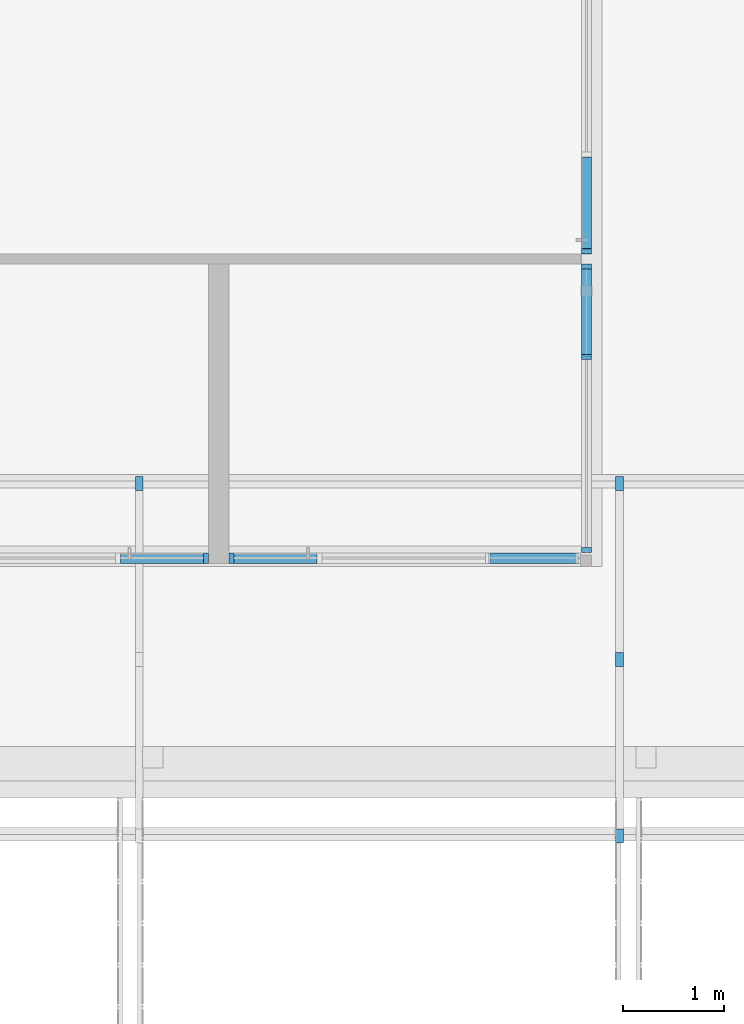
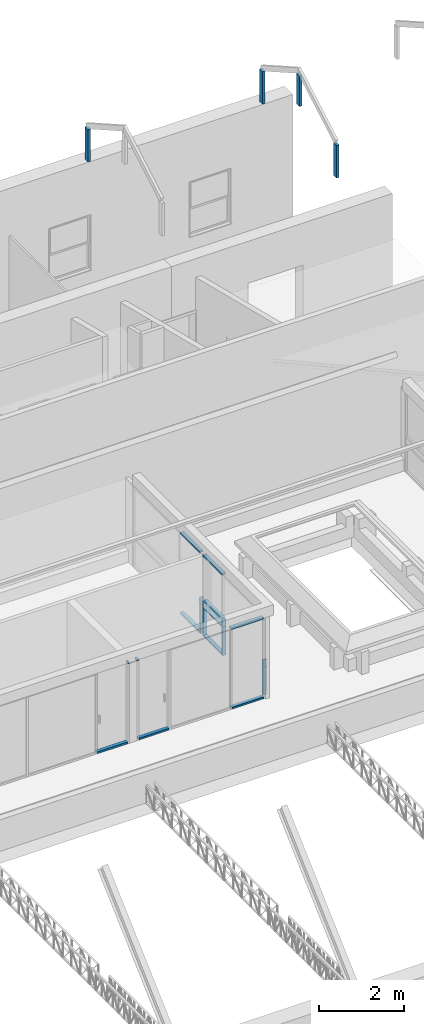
# One storey, part 95 of 153: 27 members, 6 elements without a shape of their own.
"""IFC4 building model written with IfcOpenShell, lengths in metres."""

from ifc_helpers import new_model, entity, si_unit, converted_unit, derived_unit, direction, frame, origin, place, context, subcontext, project, spatial, indexed_curve, outline, extrude, source, transform, mapped, material, type_object, type_shapes, element, aggregate, save


model = new_model("IFC4")

# Units and contexts
model_context = context("Model", 3, precision=1e-05, world=origin(), true_north=direction((6.123031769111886e-17, 1.0)))
body_context = subcontext(model_context, "Body", "Model", "MODEL_VIEW")
ifc_project = project(units=[si_unit("LENGTHUNIT", "METRE"), si_unit("AREAUNIT", "SQUARE_METRE"), si_unit("VOLUMEUNIT", "CUBIC_METRE"), converted_unit("PLANEANGLEUNIT", "DEGREE", entity("IfcRatioMeasure", 0.017453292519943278), si_unit("PLANEANGLEUNIT", "RADIAN"), dimensions=[0, 0, 0, 0, 0, 0, 0]), si_unit("MASSUNIT", "GRAM", prefix="KILO"), derived_unit("MASSDENSITYUNIT", [(si_unit("MASSUNIT", "GRAM", prefix="KILO"), 1), (si_unit("LENGTHUNIT", "METRE"), -3)]), derived_unit("MOMENTOFINERTIAUNIT", [(si_unit("LENGTHUNIT", "METRE"), 4)]), si_unit("TIMEUNIT", "SECOND"), si_unit("FREQUENCYUNIT", "HERTZ"), si_unit("THERMODYNAMICTEMPERATUREUNIT", "DEGREE_CELSIUS"), derived_unit("THERMALTRANSMITTANCEUNIT", [(si_unit("MASSUNIT", "GRAM", prefix="KILO"), 1), (si_unit("THERMODYNAMICTEMPERATUREUNIT", "KELVIN"), -1), (si_unit("TIMEUNIT", "SECOND"), -3)]), derived_unit("VOLUMETRICFLOWRATEUNIT", [(si_unit("LENGTHUNIT", "METRE"), 3), (si_unit("TIMEUNIT", "SECOND"), -1)]), derived_unit("MASSFLOWRATEUNIT", [(si_unit("MASSUNIT", "GRAM", prefix="KILO"), 1), (si_unit("TIMEUNIT", "SECOND"), -1)]), derived_unit("ROTATIONALFREQUENCYUNIT", [(si_unit("TIMEUNIT", "SECOND"), -1)]), si_unit("ELECTRICCURRENTUNIT", "AMPERE"), si_unit("ELECTRICVOLTAGEUNIT", "VOLT"), si_unit("POWERUNIT", "WATT"), si_unit("FORCEUNIT", "NEWTON", prefix="KILO"), si_unit("ILLUMINANCEUNIT", "LUX"), si_unit("LUMINOUSFLUXUNIT", "LUMEN"), si_unit("LUMINOUSINTENSITYUNIT", "CANDELA"), derived_unit("USERDEFINED", [(si_unit("MASSUNIT", "GRAM", prefix="KILO"), -1), (si_unit("LENGTHUNIT", "METRE"), -2), (si_unit("TIMEUNIT", "SECOND"), 3), (si_unit("LUMINOUSFLUXUNIT", "LUMEN"), 1)]), derived_unit("SOUNDPOWERUNIT", [(si_unit("MASSUNIT", "GRAM", prefix="KILO"), 1), (si_unit("LENGTHUNIT", "METRE"), 2), (si_unit("TIMEUNIT", "SECOND"), -3)]), derived_unit("SOUNDPRESSUREUNIT", [(si_unit("MASSUNIT", "GRAM", prefix="KILO"), 1), (si_unit("LENGTHUNIT", "METRE"), -1), (si_unit("TIMEUNIT", "SECOND"), -2)]), derived_unit("LINEARVELOCITYUNIT", [(si_unit("LENGTHUNIT", "METRE"), 1), (si_unit("TIMEUNIT", "SECOND"), -1)]), si_unit("PRESSUREUNIT", "PASCAL"), derived_unit("USERDEFINED", [(si_unit("LENGTHUNIT", "METRE"), -2), (si_unit("MASSUNIT", "GRAM", prefix="KILO"), 1), (si_unit("TIMEUNIT", "SECOND"), -2)]), derived_unit("LINEARFORCEUNIT", [(si_unit("MASSUNIT", "GRAM", prefix="KILO"), 1), (si_unit("LENGTHUNIT", "METRE"), 1), (si_unit("TIMEUNIT", "SECOND"), -2), (si_unit("LENGTHUNIT", "METRE"), -1)]), derived_unit("PLANARFORCEUNIT", [(si_unit("MASSUNIT", "GRAM", prefix="KILO"), 1), (si_unit("LENGTHUNIT", "METRE"), 1), (si_unit("TIMEUNIT", "SECOND"), -2), (si_unit("LENGTHUNIT", "METRE"), -2)])], contexts=[model_context])

# Site, building, storey
site_placement = place(None, origin())
site = spatial("IfcSite", under=ifc_project, at=site_placement, Name="Superficie", CompositionType="ELEMENT")
building_placement = place(site_placement, origin())
building = spatial("IfcBuilding", under=site, at=building_placement, CompositionType="ELEMENT")
storey_placement = place(building_placement, frame((0.0, 0.0, 3.5999999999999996)))
storey = spatial("IfcBuildingStorey", under=building, at=storey_placement, Name="Nivel 1", CompositionType="ELEMENT", Elevation=3.5999999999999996)

# Curtain wall, members
curtain_wall_type = type_object("IfcCurtainWallType", Name="Muro cortina:Muro cortina - simple", PredefinedType="NOTDEFINED")
curtain_wall_1_placement = place(storey_placement, frame((0.0, 0.0, -3.5999999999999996)))
curtain_wall_1 = element("IfcCurtainWall", 1, at=curtain_wall_1_placement, inside=storey, type_object=curtain_wall_type, Name="Muro cortina:Muro cortina - simple", ObjectType="Muro cortina:Muro cortina - simple", PredefinedType="NOTDEFINED")
ifc_material_1 = material(Name="<Unnamed>")
member_type_1 = type_object("IfcMemberType", Name="Montante rectangular:Montante rectangular - 5 x 10 cm", PredefinedType="MULLION", material=ifc_material_1)
shared_shape_1 = source(origin(), body_context, "Body", "SweptSolid", [
    extrude(outline(indexed_curve([(-0.05, -0.025), (0.05, -0.025), (0.05, 0.025), (-0.05, 0.025), (-0.05, -0.025)], self_intersect=False)), frame((0.0, 0.0, -0.8500000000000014), z_axis=(0.0, 0.0, 1.0), x_axis=(0.0, -1.0, 0.0)), (0.0, 0.0, 1.0), 0.849999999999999),
])
type_shapes(member_type_1, [shared_shape_1])
member_1_placement = place(curtain_wall_1_placement, frame((10.596799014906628, 1.9220831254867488, 3.619999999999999), z_axis=(0.0, 1.0, 0.0), x_axis=(0.0, 0.0, 1.0)))
member_1 = element("IfcMember", 2, at=member_1_placement, type_object=member_type_1, material=ifc_material_1, Name="Montante rectangular:Montante rectangular - 5 x 10 cm", ObjectType="Montante rectangular:Montante rectangular - 5 x 10 cm", PredefinedType="MULLION", context=body_context, shape_type="MappedRepresentation", body=[
    mapped(shared_shape_1, transform((0.0, 0.0, 0.0), scale=1.0)),
])
member_2_placement = place(curtain_wall_1_placement, frame((10.596799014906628, 1.9220831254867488, 4.63), z_axis=(0.0, 1.0, 0.0), x_axis=(0.0, 0.0, 1.0)))
member_2 = element("IfcMember", 3, at=member_2_placement, type_object=member_type_1, material=ifc_material_1, Name="Montante rectangular:Montante rectangular - 5 x 10 cm", ObjectType="Montante rectangular:Montante rectangular - 5 x 10 cm", PredefinedType="MULLION", context=body_context, shape_type="MappedRepresentation", body=[
    mapped(shared_shape_1, transform((0.0, 0.0, 0.0), scale=1.0)),
])
member_type_2 = type_object("IfcMemberType", Name="Montante rectangular:Montante rectangular - 5 x 10 cm", PredefinedType="MULLION", material=ifc_material_1)
shared_shape_2 = source(origin(), body_context, "Body", "SweptSolid", [
    extrude(outline(indexed_curve([(-0.05, -0.025), (0.05, -0.025), (0.05, 0.025), (-0.05, 0.025), (-0.05, -0.025)], self_intersect=False)), frame((0.0, 0.0, -0.8500000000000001), z_axis=(0.0, 0.0, 1.0), x_axis=(0.0, -1.0, 0.0)), (0.0, 0.0, 1.0), 0.8500000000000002),
])
type_shapes(member_type_2, [shared_shape_2])
member_3_placement = place(curtain_wall_1_placement, frame((10.596799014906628, 1.9220831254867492, 4.43), z_axis=(0.0, 1.0, 0.0), x_axis=(0.0, 0.0, 1.0)))
member_3 = element("IfcMember", 4, at=member_3_placement, type_object=member_type_2, material=ifc_material_1, Name="Montante rectangular:Montante rectangular - 5 x 10 cm", ObjectType="Montante rectangular:Montante rectangular - 5 x 10 cm", PredefinedType="MULLION", context=body_context, shape_type="MappedRepresentation", body=[
    mapped(shared_shape_2, transform((0.0, 0.0, 0.0), scale=1.0)),
])

# Curtain wall, member
curtain_wall_2_placement = place(storey_placement, frame((0.0, 0.0, -3.5999999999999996)))
curtain_wall_2 = element("IfcCurtainWall", 5, at=curtain_wall_2_placement, inside=storey, type_object=curtain_wall_type, Name="Muro cortina:Muro cortina - simple", ObjectType="Muro cortina:Muro cortina - simple", PredefinedType="NOTDEFINED")
member_type_3 = type_object("IfcMemberType", Name="Montante rectangular:Montante rectangular - 5 x 10 cm", PredefinedType="MULLION", material=ifc_material_1)
shared_shape_3 = source(origin(), body_context, "Body", "SweptSolid", [
    extrude(outline(indexed_curve([(-0.05, -0.025), (0.05, -0.025), (0.05, 0.025), (-0.05, 0.025), (-0.05, -0.025)], self_intersect=False)), frame((-0.025, 0.0, -0.8999999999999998), z_axis=(0.0, 0.0, 1.0), x_axis=(0.0, -1.0, 0.0)), (0.0, 0.0, 1.0), 0.8999999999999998),
])
type_shapes(member_type_3, [shared_shape_3])
member_4_placement = place(curtain_wall_2_placement, frame((9.616799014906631, -0.9517564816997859, 5.949999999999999), z_axis=(-1.0, 0.0, 0.0), x_axis=(0.0, 0.0, 1.0)))
member_4 = element("IfcMember", 6, at=member_4_placement, type_object=member_type_3, material=ifc_material_1, Name="Montante rectangular:Montante rectangular - 5 x 10 cm", ObjectType="Montante rectangular:Montante rectangular - 5 x 10 cm", PredefinedType="MULLION", context=body_context, shape_type="MappedRepresentation", body=[
    mapped(shared_shape_3, transform((0.0, 0.0, 0.0), scale=1.0)),
])

# Member
member_type_4 = type_object("IfcMemberType", Name="Montante rectangular:Montante rectangular - 5 x 10 cm", PredefinedType="MULLION", material=ifc_material_1)
shared_shape_4 = source(origin(), body_context, "Body", "SweptSolid", [
    extrude(outline(indexed_curve([(-0.05, -0.025), (0.05, -0.025), (0.05, 0.025), (-0.05, 0.025), (-0.05, -0.025)], self_intersect=False)), frame((0.0, 0.0, -0.19999999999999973), z_axis=(0.0, 0.0, 1.0), x_axis=(0.0, -1.0, 0.0)), (0.0, 0.0, 1.0), 0.19999999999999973),
])
type_shapes(member_type_4, [shared_shape_4])
member_5_placement = place(curtain_wall_1_placement, frame((10.596799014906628, 1.0470831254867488, 4.43), z_axis=(0.0, 0.0, -1.0), x_axis=(0.0, 1.0, 0.0)))
member_5 = element("IfcMember", 7, at=member_5_placement, type_object=member_type_4, material=ifc_material_1, Name="Montante rectangular:Montante rectangular - 5 x 10 cm", ObjectType="Montante rectangular:Montante rectangular - 5 x 10 cm", PredefinedType="MULLION", context=body_context, shape_type="MappedRepresentation", body=[
    mapped(shared_shape_4, transform((0.0, 0.0, 0.0), scale=1.0)),
])

member_type_5 = type_object("IfcMemberType", Name="Montante rectangular:Montante rectangular - 5 x 10 cm", PredefinedType="MULLION", material=ifc_material_1)
shared_shape_5 = source(origin(), body_context, "Body", "SweptSolid", [
    extrude(outline(indexed_curve([(-0.05, -0.025), (0.05, -0.025), (0.05, 0.025), (-0.05, 0.025), (-0.05, -0.025)], self_intersect=False)), frame((0.0, 0.0, -0.8350000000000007), z_axis=(0.0, 0.0, 1.0), x_axis=(0.0, -1.0, 0.0)), (0.0, 0.0, 1.0), 0.8350000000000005),
])
type_shapes(member_type_5, [shared_shape_5])
member_6_placement = place(curtain_wall_1_placement, frame((10.596799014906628, 1.0470831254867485, 3.5949999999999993), z_axis=(0.0, 0.0, -1.0), x_axis=(0.0, 1.0, 0.0)))
member_6 = element("IfcMember", 8, at=member_6_placement, type_object=member_type_5, material=ifc_material_1, Name="Montante rectangular:Montante rectangular - 5 x 10 cm", ObjectType="Montante rectangular:Montante rectangular - 5 x 10 cm", PredefinedType="MULLION", context=body_context, shape_type="MappedRepresentation", body=[
    mapped(shared_shape_5, transform((0.0, 0.0, 0.0), scale=1.0)),
])

# Curtain wall, member
curtain_wall_3_placement = place(storey_placement, frame((0.0, 0.0, -3.5999999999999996)))
curtain_wall_3 = element("IfcCurtainWall", 9, at=curtain_wall_3_placement, inside=storey, type_object=curtain_wall_type, Name="Muro cortina:Muro cortina - simple", ObjectType="Muro cortina:Muro cortina - simple", PredefinedType="NOTDEFINED")
member_type_6 = type_object("IfcMemberType", Name="Montante rectangular:Montante rectangular - 5 x 10 cm", PredefinedType="MULLION", material=ifc_material_1)
shared_shape_6 = source(origin(), body_context, "Body", "SweptSolid", [
    extrude(outline(indexed_curve([(-0.05, -0.025), (0.05, -0.025), (0.05, 0.025), (-0.05, 0.025), (-0.05, -0.025)], self_intersect=False)), frame((0.0, 0.0, -0.2), z_axis=(0.0, 0.0, 1.0), x_axis=(0.0, -1.0, 0.0)), (0.0, 0.0, 1.0), 0.2),
])
type_shapes(member_type_6, [shared_shape_6])
member_7_placement = place(curtain_wall_3_placement, frame((10.596799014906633, 2.097083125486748, 4.43), z_axis=(0.0, 0.0, -1.0), x_axis=(0.0, 1.0, 0.0)))
member_7 = element("IfcMember", 10, at=member_7_placement, type_object=member_type_6, material=ifc_material_1, Name="Montante rectangular:Montante rectangular - 5 x 10 cm", ObjectType="Montante rectangular:Montante rectangular - 5 x 10 cm", PredefinedType="MULLION", context=body_context, shape_type="MappedRepresentation", body=[
    mapped(shared_shape_6, transform((0.0, 0.0, 0.0), scale=1.0)),
])

# Member
member_type_7 = type_object("IfcMemberType", Name="Montante rectangular:Montante rectangular - 5 x 10 cm", PredefinedType="MULLION", material=ifc_material_1)
shared_shape_7 = source(origin(), body_context, "Body", "SweptSolid", [
    extrude(outline(indexed_curve([(-0.05, -0.025), (0.05, -0.025), (0.05, 0.025), (-0.05, 0.025), (-0.05, -0.025)], self_intersect=False)), frame((0.0, 0.0, -0.8350000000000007), z_axis=(0.0, 0.0, 1.0), x_axis=(0.0, -1.0, 0.0)), (0.0, 0.0, 1.0), 0.8350000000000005),
])
type_shapes(member_type_7, [shared_shape_7])
member_8_placement = place(curtain_wall_1_placement, frame((10.596799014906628, 1.947083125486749, 3.5949999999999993), z_axis=(0.0, 0.0, -1.0), x_axis=(0.0, 1.0, 0.0)))
member_8 = element("IfcMember", 11, at=member_8_placement, type_object=member_type_7, material=ifc_material_1, Name="Montante rectangular:Montante rectangular - 5 x 10 cm", ObjectType="Montante rectangular:Montante rectangular - 5 x 10 cm", PredefinedType="MULLION", context=body_context, shape_type="MappedRepresentation", body=[
    mapped(shared_shape_7, transform((0.0, 0.0, 0.0), scale=1.0)),
])

member_9_placement = place(curtain_wall_3_placement, frame((10.596799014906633, 2.0970831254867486, 3.5949999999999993), z_axis=(0.0, 0.0, -1.0), x_axis=(0.0, 1.0, 0.0)))
member_9 = element("IfcMember", 12, at=member_9_placement, type_object=member_type_7, material=ifc_material_1, Name="Montante rectangular:Montante rectangular - 5 x 10 cm", ObjectType="Montante rectangular:Montante rectangular - 5 x 10 cm", PredefinedType="MULLION", context=body_context, shape_type="MappedRepresentation", body=[
    mapped(shared_shape_7, transform((0.0, 0.0, 0.0), scale=1.0)),
])

member_type_8 = type_object("IfcMemberType", Name="Montante rectangular:Montante rectangular - 5 x 10 cm", PredefinedType="MULLION", material=ifc_material_1)
shared_shape_8 = source(origin(), body_context, "Body", "SweptSolid", [
    extrude(outline(indexed_curve([(-0.05, -0.025), (0.05, -0.025), (0.05, 0.025), (-0.05, 0.025), (-0.05, -0.025)], self_intersect=False)), frame((-0.025, 0.0, -0.19999999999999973), z_axis=(0.0, 0.0, 1.0), x_axis=(0.0, -1.0, 0.0)), (0.0, 0.0, 1.0), 0.19999999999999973),
])
type_shapes(member_type_8, [shared_shape_8])
member_10_placement = place(curtain_wall_1_placement, frame((10.596799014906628, -0.892916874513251, 4.63), z_axis=(0.0, 0.0, 1.0), x_axis=(0.0, -1.0, 0.0)))
member_10 = element("IfcMember", 13, at=member_10_placement, type_object=member_type_8, material=ifc_material_1, Name="Montante rectangular:Montante rectangular - 5 x 10 cm", ObjectType="Montante rectangular:Montante rectangular - 5 x 10 cm", PredefinedType="MULLION", context=body_context, shape_type="MappedRepresentation", body=[
    mapped(shared_shape_8, transform((0.0, 0.0, 0.0), scale=1.0)),
])

member_type_9 = type_object("IfcMemberType", Name="Montante rectangular:Montante rectangular - 5 x 10 cm", PredefinedType="MULLION", material=ifc_material_1)
shared_shape_9 = source(origin(), body_context, "Body", "SweptSolid", [
    extrude(outline(indexed_curve([(-0.05, -0.025), (0.05, -0.025), (0.05, 0.025), (-0.05, 0.025), (-0.05, -0.025)], self_intersect=False)), frame((0.0, 0.0, -0.07000000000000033), z_axis=(0.0, 0.0, 1.0), x_axis=(0.0, -1.0, 0.0)), (0.0, 0.0, 1.0), 0.07000000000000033),
])
type_shapes(member_type_9, [shared_shape_9])
member_11_placement = place(curtain_wall_1_placement, frame((10.596799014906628, 1.947083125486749, 5.879999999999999), z_axis=(0.0, 0.0, -1.0), x_axis=(0.0, 1.0, 0.0)))
member_11 = element("IfcMember", 14, at=member_11_placement, type_object=member_type_9, material=ifc_material_1, Name="Montante rectangular:Montante rectangular - 5 x 10 cm", ObjectType="Montante rectangular:Montante rectangular - 5 x 10 cm", PredefinedType="MULLION", context=body_context, shape_type="MappedRepresentation", body=[
    mapped(shared_shape_9, transform((0.0, 0.0, 0.0), scale=1.0)),
])

member_type_10 = type_object("IfcMemberType", Name="Montante rectangular:Montante rectangular - 5 x 10 cm", PredefinedType="MULLION", material=ifc_material_1)
shared_shape_10 = source(origin(), body_context, "Body", "SweptSolid", [
    extrude(outline(indexed_curve([(-0.05, -0.025), (0.05, -0.025), (0.05, 0.025), (-0.05, 0.025), (-0.05, -0.025)], self_intersect=False)), frame((-0.025, 0.0, -0.8099999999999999), z_axis=(0.0, 0.0, 1.0), x_axis=(0.0, -1.0, 0.0)), (0.0, 0.0, 1.0), 0.8099999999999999),
])
type_shapes(member_type_10, [shared_shape_10])
member_12_placement = place(curtain_wall_1_placement, frame((10.596799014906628, -0.892916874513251, 4.43), z_axis=(0.0, 0.0, 1.0), x_axis=(0.0, -1.0, 0.0)))
member_12 = element("IfcMember", 15, at=member_12_placement, type_object=member_type_10, material=ifc_material_1, Name="Montante rectangular:Montante rectangular - 5 x 10 cm", ObjectType="Montante rectangular:Montante rectangular - 5 x 10 cm", PredefinedType="MULLION", context=body_context, shape_type="MappedRepresentation", body=[
    mapped(shared_shape_10, transform((0.0, 0.0, 0.0), scale=1.0)),
])

member_13_placement = place(curtain_wall_3_placement, frame((10.596799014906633, 2.0770831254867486, 4.43), z_axis=(0.0, 0.0, 1.0), x_axis=(0.0, -1.0, 0.0)))
member_13 = element("IfcMember", 16, at=member_13_placement, type_object=member_type_10, material=ifc_material_1, Name="Montante rectangular:Montante rectangular - 5 x 10 cm", ObjectType="Montante rectangular:Montante rectangular - 5 x 10 cm", PredefinedType="MULLION", context=body_context, shape_type="MappedRepresentation", body=[
    mapped(shared_shape_10, transform((0.0, 0.0, 0.0), scale=1.0)),
])

member_type_11 = type_object("IfcMemberType", Name="Montante rectangular:Montante rectangular - 5 x 10 cm", PredefinedType="MULLION", material=ifc_material_1)
shared_shape_11 = source(origin(), body_context, "Body", "SweptSolid", [
    extrude(outline(indexed_curve([(-0.05, -0.025), (0.05, -0.025), (0.05, 0.025), (-0.05, 0.025), (-0.05, -0.025)], self_intersect=False)), frame((-0.025, 0.0, -0.8750000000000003), z_axis=(0.0, 0.0, 1.0), x_axis=(0.0, -1.0, 0.0)), (0.0, 0.0, 1.0), 0.8750000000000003),
])
type_shapes(member_type_11, [shared_shape_11])
member_14_placement = place(curtain_wall_1_placement, frame((10.596799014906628, 1.9220831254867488, 5.949999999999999), z_axis=(0.0, 1.0, 0.0), x_axis=(0.0, 0.0, 1.0)))
member_14 = element("IfcMember", 17, at=member_14_placement, type_object=member_type_11, material=ifc_material_1, Name="Montante rectangular:Montante rectangular - 5 x 10 cm", ObjectType="Montante rectangular:Montante rectangular - 5 x 10 cm", PredefinedType="MULLION", context=body_context, shape_type="MappedRepresentation", body=[
    mapped(shared_shape_11, transform((0.0, 0.0, 0.0), scale=1.0)),
])

member_type_12 = type_object("IfcMemberType", Name="Montante rectangular:Montante rectangular - 5 x 10 cm", PredefinedType="MULLION", material=ifc_material_1)
shared_shape_12 = source(origin(), body_context, "Body", "SweptSolid", [
    extrude(outline(indexed_curve([(-0.05, -0.025), (0.05, -0.025), (0.05, 0.025), (-0.05, 0.025), (-0.05, -0.025)], self_intersect=False)), frame((0.0, 0.0, -0.9099999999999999), z_axis=(0.0, 0.0, 1.0), x_axis=(0.0, -1.0, 0.0)), (0.0, 0.0, 1.0), 0.9099999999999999),
])
type_shapes(member_type_12, [shared_shape_12])
member_15_placement = place(curtain_wall_3_placement, frame((10.596799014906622, 3.032083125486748, 3.619999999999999), z_axis=(0.0, 1.0, 0.0), x_axis=(0.0, 0.0, 1.0)))
member_15 = element("IfcMember", 18, at=member_15_placement, type_object=member_type_12, material=ifc_material_1, Name="Montante rectangular:Montante rectangular - 5 x 10 cm", ObjectType="Montante rectangular:Montante rectangular - 5 x 10 cm", PredefinedType="MULLION", context=body_context, shape_type="MappedRepresentation", body=[
    mapped(shared_shape_12, transform((0.0, 0.0, 0.0), scale=1.0)),
])

member_type_13 = type_object("IfcMemberType", Name="Montante rectangular:Montante rectangular - 5 x 10 cm", PredefinedType="MULLION", material=ifc_material_1)
shared_shape_13 = source(origin(), body_context, "Body", "SweptSolid", [
    extrude(outline(indexed_curve([(-0.05, -0.025), (0.05, -0.025), (0.05, 0.025), (-0.05, 0.025), (-0.05, -0.025)], self_intersect=False)), frame((-0.025, 0.0, -0.9099999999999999), z_axis=(0.0, 0.0, 1.0), x_axis=(0.0, -1.0, 0.0)), (0.0, 0.0, 1.0), 0.9099999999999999),
])
type_shapes(member_type_13, [shared_shape_13])
member_16_placement = place(curtain_wall_3_placement, frame((10.596799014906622, 3.0320831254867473, 5.949999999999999), z_axis=(0.0, 1.0, 0.0), x_axis=(0.0, 0.0, 1.0)))
member_16 = element("IfcMember", 19, at=member_16_placement, type_object=member_type_13, material=ifc_material_1, Name="Montante rectangular:Montante rectangular - 5 x 10 cm", ObjectType="Montante rectangular:Montante rectangular - 5 x 10 cm", PredefinedType="MULLION", context=body_context, shape_type="MappedRepresentation", body=[
    mapped(shared_shape_13, transform((0.0, 0.0, 0.0), scale=1.0)),
])

member_type_14 = type_object("IfcMemberType", Name="Montante rectangular:Montante rectangular - 5 x 10 cm", PredefinedType="MULLION", material=ifc_material_1)
shared_shape_14 = source(origin(), body_context, "Body", "SweptSolid", [
    extrude(outline(indexed_curve([(-0.05, -0.025), (0.05, -0.025), (0.05, 0.025), (-0.05, 0.025), (-0.05, -0.025)], self_intersect=False)), frame((-0.025, 0.0, -0.2), z_axis=(0.0, 0.0, 1.0), x_axis=(0.0, -1.0, 0.0)), (0.0, 0.0, 1.0), 0.2),
])
type_shapes(member_type_14, [shared_shape_14])
member_17_placement = place(curtain_wall_3_placement, frame((10.596799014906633, 2.0770831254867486, 4.63), z_axis=(0.0, 0.0, 1.0), x_axis=(0.0, -1.0, 0.0)))
member_17 = element("IfcMember", 20, at=member_17_placement, type_object=member_type_14, material=ifc_material_1, Name="Montante rectangular:Montante rectangular - 5 x 10 cm", ObjectType="Montante rectangular:Montante rectangular - 5 x 10 cm", PredefinedType="MULLION", context=body_context, shape_type="MappedRepresentation", body=[
    mapped(shared_shape_14, transform((0.0, 0.0, 0.0), scale=1.0)),
])

aggregate(curtain_wall_3, [member_15, member_16, member_13, member_17, member_7, member_9])

member_type_15 = type_object("IfcMemberType", Name="Montante rectangular:Montante rectangular - 5 x 10 cm", PredefinedType="MULLION", material=ifc_material_1)
shared_shape_15 = source(origin(), body_context, "Body", "SweptSolid", [
    extrude(outline(indexed_curve([(-0.05, -0.025), (0.05, -0.025), (0.05, 0.025), (-0.05, 0.025), (-0.05, -0.025)], self_intersect=False)), frame((0.0, 0.0, -0.2), z_axis=(0.0, 0.0, 1.0), x_axis=(0.0, -1.0, 0.0)), (0.0, 0.0, 1.0), 0.2),
])
type_shapes(member_type_15, [shared_shape_15])
member_18_placement = place(curtain_wall_1_placement, frame((10.596799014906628, 1.947083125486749, 4.43), z_axis=(0.0, 0.0, -1.0), x_axis=(0.0, 1.0, 0.0)))
member_18 = element("IfcMember", 21, at=member_18_placement, type_object=member_type_15, material=ifc_material_1, Name="Montante rectangular:Montante rectangular - 5 x 10 cm", ObjectType="Montante rectangular:Montante rectangular - 5 x 10 cm", PredefinedType="MULLION", context=body_context, shape_type="MappedRepresentation", body=[
    mapped(shared_shape_15, transform((0.0, 0.0, 0.0), scale=1.0)),
])

aggregate(curtain_wall_1, [member_3, member_18, member_8, member_5, member_6, member_1, member_12, member_10, member_14, member_11, member_2])

member_type_16 = type_object("IfcMemberType", Name="Montante rectangular:Montante rectangular - 5 x 10 cm", PredefinedType="MULLION", material=ifc_material_1)
shared_shape_16 = source(origin(), body_context, "Body", "SweptSolid", [
    extrude(outline(indexed_curve([(-0.05, -0.025), (0.05, -0.025), (0.05, 0.025), (-0.05, 0.025), (-0.05, -0.025)], self_intersect=False)), frame((-0.025, 0.0, -0.8250000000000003), z_axis=(0.0, 0.0, 1.0), x_axis=(0.0, -1.0, 0.0)), (0.0, 0.0, 1.0), 0.8249999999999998),
])
type_shapes(member_type_16, [shared_shape_16])
member_19_placement = place(curtain_wall_2_placement, frame((7.916799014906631, -0.9517564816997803, 3.5999999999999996), z_axis=(1.0, 0.0, 0.0), x_axis=(0.0, 0.0, -1.0)))
member_19 = element("IfcMember", 22, at=member_19_placement, type_object=member_type_16, material=ifc_material_1, Name="Montante rectangular:Montante rectangular - 5 x 10 cm", ObjectType="Montante rectangular:Montante rectangular - 5 x 10 cm", PredefinedType="MULLION", context=body_context, shape_type="MappedRepresentation", body=[
    mapped(shared_shape_16, transform((0.0, 0.0, 0.0), scale=1.0)),
])

member_type_17 = type_object("IfcMemberType", Name="Montante rectangular:Montante rectangular - 5 x 10 cm", PredefinedType="MULLION", material=ifc_material_1)
shared_shape_17 = source(origin(), body_context, "Body", "SweptSolid", [
    extrude(outline(indexed_curve([(-0.05, -0.025), (0.05, -0.025), (0.05, 0.025), (-0.05, 0.025), (-0.05, -0.025)], self_intersect=False)), frame((-0.025, 0.0, -0.8749999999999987), z_axis=(0.0, 0.0, 1.0), x_axis=(0.0, -1.0, 0.0)), (0.0, 0.0, 1.0), 0.8749999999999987),
])
type_shapes(member_type_17, [shared_shape_17])
member_20_placement = place(curtain_wall_2_placement, frame((10.51679901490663, -0.9517564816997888, 3.5999999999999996), z_axis=(1.0, 0.0, 0.0), x_axis=(0.0, 0.0, -1.0)))
member_20 = element("IfcMember", 23, at=member_20_placement, type_object=member_type_17, material=ifc_material_1, Name="Montante rectangular:Montante rectangular - 5 x 10 cm", ObjectType="Montante rectangular:Montante rectangular - 5 x 10 cm", PredefinedType="MULLION", context=body_context, shape_type="MappedRepresentation", body=[
    mapped(shared_shape_17, transform((0.0, 0.0, 0.0), scale=1.0)),
])

member_type_18 = type_object("IfcMemberType", Name="Montante rectangular:Montante rectangular - 5 x 10 cm", PredefinedType="MULLION", material=ifc_material_1)
shared_shape_18 = source(origin(), body_context, "Body", "SweptSolid", [
    extrude(outline(indexed_curve([(-0.05, -0.025), (0.05, -0.025), (0.05, 0.025), (-0.05, 0.025), (-0.05, -0.025)], self_intersect=False)), frame((-0.025, 0.0, -0.04999999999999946), z_axis=(0.0, 0.0, 1.0), x_axis=(0.0, -1.0, 0.0)), (0.0, 0.0, 1.0), 0.04999999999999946),
])
type_shapes(member_type_18, [shared_shape_18])
member_21_placement = place(curtain_wall_2_placement, frame((7.041799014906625, -0.9517564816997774, 5.9), z_axis=(0.0, 0.0, -1.0), x_axis=(-1.0, 0.0, 0.0)))
member_21 = element("IfcMember", 24, at=member_21_placement, type_object=member_type_18, material=ifc_material_1, Name="Montante rectangular:Montante rectangular - 5 x 10 cm", ObjectType="Montante rectangular:Montante rectangular - 5 x 10 cm", PredefinedType="MULLION", context=body_context, shape_type="MappedRepresentation", body=[
    mapped(shared_shape_18, transform((0.0, 0.0, 0.0), scale=1.0)),
])

aggregate(curtain_wall_2, [member_4, member_19, member_20, member_21])

# Curtain wall, members
curtain_wall_4_placement = place(storey_placement, frame((0.0, 0.0, -3.5999999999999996)))
curtain_wall_4 = element("IfcCurtainWall", 25, at=curtain_wall_4_placement, inside=storey, type_object=curtain_wall_type, Name="Muro cortina:Muro cortina - simple", ObjectType="Muro cortina:Muro cortina - simple", PredefinedType="NOTDEFINED")
member_type_19 = type_object("IfcMemberType", Name="Montante rectangular:Montante rectangular - 5 x 10 cm", PredefinedType="MULLION", material=ifc_material_1)
shared_shape_19 = source(origin(), body_context, "Body", "SweptSolid", [
    extrude(outline(indexed_curve([(-0.05, -0.025), (0.05, -0.025), (0.05, 0.025), (-0.05, 0.025), (-0.05, -0.025)], self_intersect=False)), frame((-0.025, 0.0, -0.8250000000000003), z_axis=(0.0, 0.0, 1.0), x_axis=(0.0, -1.0, 0.0)), (0.0, 0.0, 1.0), 0.8249999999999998),
])
type_shapes(member_type_19, [shared_shape_19])
member_22_placement = place(curtain_wall_4_placement, frame((5.966799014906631, -0.9517564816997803, 3.5999999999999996), z_axis=(-1.0, 0.0, 0.0), x_axis=(0.0, 0.0, -1.0)))
member_22 = element("IfcMember", 26, at=member_22_placement, type_object=member_type_19, material=ifc_material_1, Name="Montante rectangular:Montante rectangular - 5 x 10 cm", ObjectType="Montante rectangular:Montante rectangular - 5 x 10 cm", PredefinedType="MULLION", context=body_context, shape_type="MappedRepresentation", body=[
    mapped(shared_shape_19, transform((0.0, 0.0, 0.0), scale=1.0)),
])
member_type_20 = type_object("IfcMemberType", Name="Montante rectangular:Montante rectangular - 5 x 10 cm", PredefinedType="MULLION", material=ifc_material_1)
shared_shape_20 = source(origin(), body_context, "Body", "SweptSolid", [
    extrude(outline(indexed_curve([(-0.05, -0.025), (0.05, -0.025), (0.05, 0.025), (-0.05, 0.025), (-0.05, -0.025)], self_intersect=False)), frame((-0.025, 0.0, -0.04999999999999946), z_axis=(0.0, 0.0, 1.0), x_axis=(0.0, -1.0, 0.0)), (0.0, 0.0, 1.0), 0.04999999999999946),
])
type_shapes(member_type_20, [shared_shape_20])
member_23_placement = place(curtain_wall_4_placement, frame((6.841799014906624, -0.9517564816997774, 5.9), z_axis=(0.0, 0.0, -1.0), x_axis=(1.0, 0.0, 0.0)))
member_23 = element("IfcMember", 27, at=member_23_placement, type_object=member_type_20, material=ifc_material_1, Name="Montante rectangular:Montante rectangular - 5 x 10 cm", ObjectType="Montante rectangular:Montante rectangular - 5 x 10 cm", PredefinedType="MULLION", context=body_context, shape_type="MappedRepresentation", body=[
    mapped(shared_shape_20, transform((0.0, 0.0, 0.0), scale=1.0)),
])
aggregate(curtain_wall_4, [member_22, member_23])

# Assembly, member
assembly_1_placement = place(storey_placement, origin())
assembly_1 = element("IfcElementAssembly", 28, at=assembly_1_placement, inside=storey, Name="Cercha superior:Cercha superior", ObjectType="Cercha superior:Cercha superior", AssemblyPlace="NOTDEFINED", PredefinedType="TRUSS")
ifc_material_2 = material(Name="Madera - Madera de construcción", Category="Madera")
member_type_21 = type_object("IfcMemberType", Name="Glulam-Pino del sur:76X140", PredefinedType="BRACE", material=ifc_material_2)
shared_shape_21 = source(origin(), body_context, "Body", "SweptSolid", [
    extrude(outline(indexed_curve([(-0.06999999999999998, -0.03800000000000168), (0.06999999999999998, -0.03800000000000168), (0.06999999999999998, 0.03800000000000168), (-0.06999999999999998, 0.03800000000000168), (-0.06999999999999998, -0.03800000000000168)], self_intersect=False)), frame((-0.5000000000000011, 0.0, 0.0), z_axis=(1.0, 0.0, 0.0), x_axis=(0.0, 0.0, -1.0)), (0.0, 0.0, 1.0), 0.939000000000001),
])
type_shapes(member_type_21, [shared_shape_21])
member_24_placement = place(building_placement, frame((6.151926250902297, -0.20869495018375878, 20.699959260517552), z_axis=(0.0, -1.0, 0.0), x_axis=(0.0, 0.0, 1.0)))
member_24 = element("IfcMember", 29, at=member_24_placement, type_object=member_type_21, material=ifc_material_2, Name="Glulam-Pino del sur:76X140", ObjectType="Glulam-Pino del sur:76X140", PredefinedType="BRACE", context=body_context, shape_type="MappedRepresentation", body=[
    mapped(shared_shape_21, transform((0.0, 0.0, 0.0), scale=1.0)),
])
aggregate(assembly_1, [member_24])

# Assembly, members
assembly_2_placement = place(storey_placement, origin())
assembly_2 = element("IfcElementAssembly", 30, at=assembly_2_placement, inside=storey, Name="Cercha superior:Cercha superior", ObjectType="Cercha superior:Cercha superior", AssemblyPlace="NOTDEFINED", PredefinedType="TRUSS")
member_25_placement = place(building_placement, frame((10.921926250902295, -0.2086949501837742, 20.699959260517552), z_axis=(0.0, -1.0, 0.0), x_axis=(0.0, 0.0, 1.0)))
member_25 = element("IfcMember", 31, at=member_25_placement, type_object=member_type_21, material=ifc_material_2, Name="Glulam-Pino del sur:76X140", ObjectType="Glulam-Pino del sur:76X140", PredefinedType="BRACE", context=body_context, shape_type="MappedRepresentation", body=[
    mapped(shared_shape_21, transform((0.0, 0.0, 0.0), scale=1.0)),
])
member_type_22 = type_object("IfcMemberType", Name="Glulam-Pino del sur:76X140", PredefinedType="BRACE", material=ifc_material_2)
shared_shape_22 = source(origin(), body_context, "Body", "SweptSolid", [
    extrude(outline(indexed_curve([(-0.06999999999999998, -0.03800000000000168), (0.06999999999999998, -0.03800000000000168), (0.06999999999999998, 0.03800000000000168), (-0.06999999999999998, 0.03800000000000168), (-0.06999999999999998, -0.03800000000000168)], self_intersect=False)), frame((-0.5000000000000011, 0.0, 0.0), z_axis=(1.0, 0.0, 0.0), x_axis=(0.0, 0.0, -1.0)), (0.0, 0.0, 1.0), 0.939000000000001),
])
type_shapes(member_type_22, [shared_shape_22])
member_26_placement = place(building_placement, frame((10.921926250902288, -3.7086724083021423, 20.687397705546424), z_axis=(0.0, -1.0, 0.0), x_axis=(0.0, 0.0, 1.0)))
member_26 = element("IfcMember", 32, at=member_26_placement, type_object=member_type_22, material=ifc_material_2, Name="Glulam-Pino del sur:76X140", ObjectType="Glulam-Pino del sur:76X140", PredefinedType="BRACE", context=body_context, shape_type="MappedRepresentation", body=[
    mapped(shared_shape_22, transform((0.0, 0.0, 0.0), scale=1.0)),
])
member_type_23 = type_object("IfcMemberType", Name="Glulam-Pino del sur:76X140", PredefinedType="BRACE", material=ifc_material_2)
shared_shape_23 = source(origin(), body_context, "Body", "SweptSolid", [
    extrude(outline(indexed_curve([(-0.06999999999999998, -0.03800000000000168), (0.06999999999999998, -0.03800000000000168), (0.06999999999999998, 0.03800000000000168), (-0.06999999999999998, 0.03800000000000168), (-0.06999999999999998, -0.03800000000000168)], self_intersect=False)), frame((-0.5000000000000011, 0.0, 0.0), z_axis=(1.0, 0.0, 0.0), x_axis=(0.0, 0.0, -1.0)), (0.0, 0.0, 1.0), 0.8790000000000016),
])
type_shapes(member_type_23, [shared_shape_23])
member_27_placement = place(building_placement, frame((10.921926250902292, -1.9586836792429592, 21.69367848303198), z_axis=(0.0, -1.0, 0.0), x_axis=(0.0, 0.0, 1.0)))
member_27 = element("IfcMember", 33, at=member_27_placement, type_object=member_type_23, material=ifc_material_2, Name="Glulam-Pino del sur:76X140", ObjectType="Glulam-Pino del sur:76X140", PredefinedType="BRACE", context=body_context, shape_type="MappedRepresentation", body=[
    mapped(shared_shape_23, transform((0.0, 0.0, 0.0), scale=1.0)),
])
aggregate(assembly_2, [member_25, member_26, member_27])

save(model, "model.ifc")
